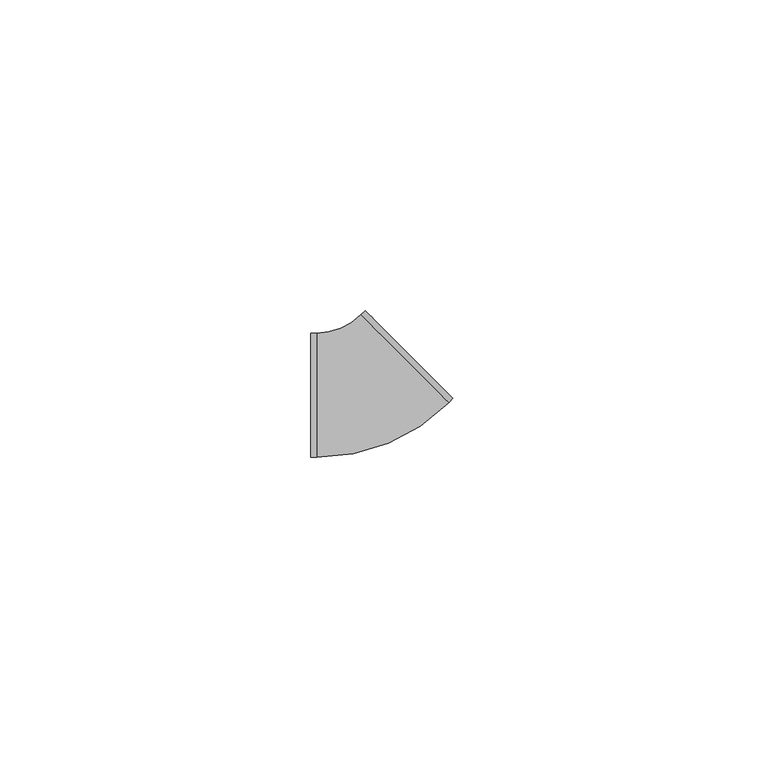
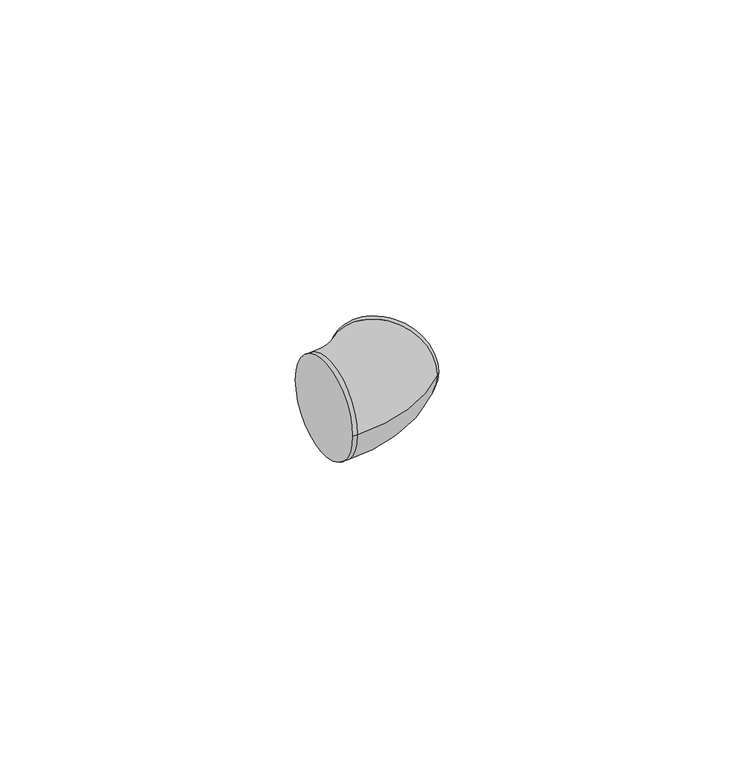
"""IFC4 building model written with IfcOpenShell, lengths in millimetres: cable carrier fitting geometry, ADSK_Поворот_Минимальный размер : Неспецифицируемый."""

import ifcopenshell
import ifcopenshell.guid

model = None  # the IFC model being written
_history = None  # IfcOwnerHistory: only IFC2X3 demands one
_inside = {}  # id of a spatial element -> (the spatial element, [elements in it])
_under = {}  # id of a project, library or spatial element -> (it, [spatial elements below it])
_declared = {}  # id of a project -> (the project, [libraries it declares])
_typed = {}  # id of a type object -> (the type object, [elements of that type])
_made_of = {}  # id of a material, layer set ... -> (it, [elements and type objects made of it])


def new_model(schema):
    """Start an empty IFC model of exactly this schema.

    Asked for "IFC4X3", IfcOpenShell would pick the latest addendum, in which some entities
    have other attributes; the version numbers below select the first issue.
    IFC2X3 requires an IfcOwnerHistory on every rooted entity: one is made here for all.
    """
    global model, _history
    if schema == "IFC4X3":
        model = ifcopenshell.file(schema_version=(4, 3, 0, 0))
    else:
        model = ifcopenshell.file(schema=schema)
    _inside.clear()
    _under.clear()
    _declared.clear()
    _typed.clear()
    _made_of.clear()
    _history = None
    if model.schema == "IFC2X3":
        org = make("IfcOrganization", Name="unknown")
        user = make(
            "IfcPersonAndOrganization",
            ThePerson=make("IfcPerson", FamilyName="unknown"),
            TheOrganization=org,
        )
        app = make(
            "IfcApplication",
            ApplicationDeveloper=org,
            Version="unknown",
            ApplicationFullName="unknown",
            ApplicationIdentifier="unknown",
        )
        _history = make(
            "IfcOwnerHistory",
            OwningUser=user,
            OwningApplication=app,
            ChangeAction="ADDED",
            CreationDate=0,
        )
    return model


def make(cls, **values):
    """One entity of the class cls with the attributes given. An attribute that is None is left unset."""
    return model.create_entity(
        cls, **{name: value for name, value in values.items() if value is not None}
    )


def rooted(cls, **values):
    """An entity with a GlobalId (a new one), such as an element, a storey or a relation."""
    return make(cls, GlobalId=ifcopenshell.guid.new(), OwnerHistory=_history, **values)


def si_unit(unit_type, name, prefix=None):
    """IfcSIUnit, for example si_unit("LENGTHUNIT", "METRE", prefix="MILLI")."""
    return make("IfcSIUnit", UnitType=unit_type, Prefix=prefix, Name=name)


def assignment(units):
    """IfcUnitAssignment: the units of a project."""
    return None if units is None else make("IfcUnitAssignment", Units=units)


def point(xyz):
    """IfcCartesianPoint."""
    return None if xyz is None else make("IfcCartesianPoint", Coordinates=xyz)


def direction(xyz):
    """IfcDirection."""
    return None if xyz is None else make("IfcDirection", DirectionRatios=xyz)


def frame(location, z_axis=None, x_axis=None):
    """IfcAxis2Placement3D, a coordinate frame: its origin and axes. An axis left out is left unset."""
    return make(
        "IfcAxis2Placement3D",
        Location=point(location),
        Axis=direction(z_axis),
        RefDirection=direction(x_axis),
    )


def origin():
    """The frame at (0, 0, 0) with its axes left unset."""
    return frame((0.0, 0.0, 0.0))


def place(relative_to, where):
    """IfcLocalPlacement: puts the frame where relative to a parent placement (None: the world)."""
    return make(
        "IfcLocalPlacement", PlacementRelTo=relative_to, RelativePlacement=where
    )


def context(
    kind, dimensions, precision=None, world=None, true_north=None, identifier=None
):
    """IfcGeometricRepresentationContext, for example the 3D "Model" context."""
    return make(
        "IfcGeometricRepresentationContext",
        ContextIdentifier=identifier,
        ContextType=kind,
        CoordinateSpaceDimension=dimensions,
        Precision=precision,
        WorldCoordinateSystem=world,
        TrueNorth=true_north,
    )


def project(units=None, contexts=None):
    """IfcProject with its units and contexts."""
    return rooted(
        "IfcProject",
        Name="project",
        RepresentationContexts=contexts,
        UnitsInContext=assignment(units),
    )


def spatial(cls, under=None, at=None, **own):
    """A site, building, storey or space (cls), placed at a placement, below another one or the project."""
    s = rooted(cls, ObjectPlacement=at, **own)
    if under is not None:
        _under.setdefault(under.id(), (under, []))[1].append(s)
    return s


def circle_curve(where, radius):
    """IfcCircle in the frame where."""
    return make("IfcCircle", Position=where, Radius=radius)


def ellipse_curve(where, semi_axis1, semi_axis2):
    """IfcEllipse in the frame where."""
    return make(
        "IfcEllipse", Position=where, SemiAxis1=semi_axis1, SemiAxis2=semi_axis2
    )


def trimmed(basis, trim1, trim2, sense, master):
    """IfcTrimmedCurve: the piece of a basis curve between two trims."""
    return make(
        "IfcTrimmedCurve",
        BasisCurve=basis,
        Trim1=trim1,
        Trim2=trim2,
        SenseAgreement=sense,
        MasterRepresentation=master,
    )


def shape(context_of_items, identifier, shape_type, items):
    """IfcShapeRepresentation: the items that make up one representation, for example the "Body"."""
    return make(
        "IfcShapeRepresentation",
        ContextOfItems=context_of_items,
        RepresentationIdentifier=identifier,
        RepresentationType=shape_type,
        Items=items,
    )


def source(mapping_origin, context_of_items, identifier, shape_type, items):
    """IfcRepresentationMap: a shape defined once, which mapped items show again and again."""
    return make(
        "IfcRepresentationMap",
        MappingOrigin=mapping_origin,
        MappedRepresentation=shape(context_of_items, identifier, shape_type, items),
    )


def transform(
    local_origin,
    x_axis=None,
    y_axis=None,
    z_axis=None,
    scale=None,
    scale2=None,
    scale3=None,
    uniform=True,
):
    """IfcCartesianTransformationOperator3D, or its non-uniform kind. x_axis, y_axis, z_axis: its Axis1, 2, 3."""
    if uniform:
        return make(
            "IfcCartesianTransformationOperator3D",
            Axis1=direction(x_axis),
            Axis2=direction(y_axis),
            LocalOrigin=point(local_origin),
            Scale=scale,
            Axis3=direction(z_axis),
        )
    return make(
        "IfcCartesianTransformationOperator3DnonUniform",
        Axis1=direction(x_axis),
        Axis2=direction(y_axis),
        LocalOrigin=point(local_origin),
        Scale=scale,
        Axis3=direction(z_axis),
        Scale2=scale2,
        Scale3=scale3,
    )


def mapped(mapping_source, mapping_target):
    """IfcMappedItem: shows the shape of a source again, moved by a transform."""
    return make(
        "IfcMappedItem", MappingSource=mapping_source, MappingTarget=mapping_target
    )


def made_of(thing, what):
    """Note that an element or type object is made of a material, layer set ...; save() writes the relation."""
    if what is not None:
        _made_of.setdefault(what.id(), (what, []))[1].append(thing)
    return thing


def element(
    cls,
    number,
    at=None,
    inside=None,
    cuts=None,
    type_object=None,
    material=None,
    context=None,
    identifier="Body",
    shape_type=None,
    held_by="IfcProductDefinitionShape",
    body=None,
    shapes=None,
    **own,
):
    """One element of the class cls, such as IfcWall. Its Tag is "e" and its number.

    at: its placement. inside: the storey or other place that contains it. cuts: it is an
    opening in that element (IfcRelVoidsElement). A single representation is given by context,
    identifier, shape_type and body (its items); several are given by shapes. held_by: the class
    of the entity that holds the representations. save() writes the other relations.
    """
    e = rooted(cls, Tag="e%d" % number, ObjectPlacement=at, **own)
    if body is not None:
        shapes = [shape(context, identifier, shape_type, body)]
    if shapes is not None:
        e.Representation = make(held_by, Representations=shapes)
    if inside is not None:
        _inside.setdefault(inside.id(), (inside, []))[1].append(e)
    if cuts is not None:
        rooted(
            "IfcRelVoidsElement", RelatingBuildingElement=cuts, RelatedOpeningElement=e
        )
    if type_object is not None:
        _typed.setdefault(type_object.id(), (type_object, []))[1].append(e)
    return made_of(e, material)


def aggregate(whole, parts):
    """IfcRelAggregates: a whole, such as a stair, and the parts it consists of."""
    return rooted("IfcRelAggregates", RelatingObject=whole, RelatedObjects=parts)


def save(model, path):
    """Write the relations noted so far, then the file.

    IfcRelAggregates (storeys below a building ...), IfcRelContainedInSpatialStructure (elements
    in a storey), IfcRelDefinesByType, IfcRelAssociatesMaterial and IfcRelDeclares: one each for
    every whole, place, type object, material and project.
    """
    for whole, parts in _under.values():
        aggregate(whole, parts)
    for where, things in _inside.values():
        rooted(
            "IfcRelContainedInSpatialStructure",
            RelatedElements=things,
            RelatingStructure=where,
        )
    for kind, things in _typed.values():
        rooted("IfcRelDefinesByType", RelatedObjects=things, RelatingType=kind)
    for what, things in _made_of.values():
        rooted("IfcRelAssociatesMaterial", RelatedObjects=things, RelatingMaterial=what)
    for by, libraries in _declared.values():
        rooted("IfcRelDeclares", RelatingContext=by, RelatedDefinitions=libraries)
    model.write(path)


def plane_surface(at):
    """IfcPlane: the flat surface through the origin of the frame at, square to its z axis."""
    return make("IfcPlane", Position=at)


def cylinder_surface(at, radius):
    """IfcCylindricalSurface: all points at the distance radius from the z axis of the frame at."""
    return make("IfcCylindricalSurface", Position=at, Radius=radius)


def revolved_surface(curve, axis_point, axis_direction):
    """IfcSurfaceOfRevolution: the curve turned about the line through axis_point along axis_direction."""
    return make(
        "IfcSurfaceOfRevolution",
        SweptCurve=make("IfcArbitraryOpenProfileDef", ProfileType="CURVE", Curve=curve),
        AxisPosition=make("IfcAxis1Placement", Location=point(axis_point), Axis=direction(axis_direction)),
    )


def advanced_brep(points, edges, surfaces, faces):
    """IfcAdvancedBrep: a solid bounded by faces that lie on surfaces and meet in shared edges.

    An edge is (start, end): straight between two places in points (the first is 0);
    or (start, end, curve); or (start, end, curve, False) where it runs against its curve.
    A face is (place in surfaces, loops), or (place, loops, False) where it looks against
    its surface's normal. A loop lists edges by number (the first is 1), with a minus sign
    where the edge is run from its end to its start. The first loop is the outer one.
    """
    corners = [point(p) for p in points]
    vertices = [make("IfcVertexPoint", VertexGeometry=c) for c in corners]
    made = []
    for start, end, *more in edges:
        made.append(
            make(
                "IfcEdgeCurve",
                EdgeStart=vertices[start],
                EdgeEnd=vertices[end],
                EdgeGeometry=more[0] if more else make("IfcPolyline", Points=[corners[start], corners[end]]),
                SameSense=more[1] if len(more) > 1 else True,
            )
        )
    hull = []
    for where, loops, *sense in faces:
        bounds = []
        for j, loop in enumerate(loops):
            ring = [make("IfcOrientedEdge", EdgeElement=made[abs(k) - 1], Orientation=k > 0) for k in loop]
            bounds.append(
                make(
                    "IfcFaceOuterBound" if j == 0 else "IfcFaceBound",
                    Bound=make("IfcEdgeLoop", EdgeList=ring),
                    Orientation=True,
                )
            )
        hull.append(make("IfcAdvancedFace", Bounds=bounds, FaceSurface=surfaces[where], SameSense=sense[0] if sense else True))
    return make("IfcAdvancedBrep", Outer=make("IfcClosedShell", CfsFaces=hull))


def cable_carrier_fitting_5f05cd2f(model_context):
    return source(origin(), model_context, "Body", "AdvancedBrep", [
        advanced_brep(
        [(-9.2842781, -10.0, 0.0), (-9.2842781, 10.0, 0.0), (-8.2842781, -10.0, 0.0), (-8.2842781, 10.0, 0.0), (-1.2132062, 12.9289363, 0.0), (12.9289378, -1.213191, 0.0), (13.6360441, -0.5060838, 0.0), (-0.5060998, 13.6360435, 0.0)],
        [
            (0, 1, circle_curve(frame((-9.2842781, 0.0, 0.0), z_axis=(-1.0, -4.92260399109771e-12, 0.0), x_axis=(-4.92260399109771e-12, 1.0, 0.0)), 10.0)),
            (1, 0, circle_curve(frame((-9.2842781, 0.0, 0.0), z_axis=(-1.0, -4.92260399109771e-12, 0.0), x_axis=(-4.92260399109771e-12, 1.0, 0.0)), 10.0)),
            (0, 2),
            (2, 3, circle_curve(frame((-8.2842781, 0.0, 0.0), z_axis=(-1.0, -4.92260399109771e-12, 0.0), x_axis=(-4.92260399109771e-12, 1.0, 0.0)), 10.0)),
            (3, 1),
            (3, 2, circle_curve(frame((-8.2842781, 0.0, 0.0), z_axis=(-1.0, -4.92260399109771e-12, 0.0), x_axis=(-4.92260399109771e-12, 1.0, 0.0)), 10.0)),
            (4, 3, circle_curve(frame((-8.2842781, 20.0, 0.0), z_axis=(0.0, 0.0, -1.0), x_axis=(0.0, -1.0, 0.0)), 10.0)),
            (2, 5, circle_curve(frame((-8.2842781, 20.0, 0.0), z_axis=(0.0, 0.0, 1.0), x_axis=(0.0, -1.0, 0.0)), 30.0)),
            (5, 4, circle_curve(frame((5.8578658, 5.8578727, 0.0), z_axis=(-0.7071063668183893, -0.7071071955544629, 0.0), x_axis=(-0.7071071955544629, 0.7071063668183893, 0.0)), 10.0)),
            (4, 5, circle_curve(frame((5.8578658, 5.8578727, 0.0), z_axis=(-0.7071063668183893, -0.7071071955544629, 0.0), x_axis=(-0.7071071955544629, 0.7071063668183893, 0.0)), 10.0)),
            (6, 7, circle_curve(frame((6.5649722, 6.5649799, 0.0), z_axis=(0.7071063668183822, 0.70710719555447, 0.0), x_axis=(-0.70710719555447, 0.7071063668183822, 0.0)), 10.0)),
            (7, 6, circle_curve(frame((6.5649722, 6.5649799, 0.0), z_axis=(0.7071063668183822, 0.70710719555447, 0.0), x_axis=(-0.70710719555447, 0.7071063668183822, 0.0)), 10.0)),
            (5, 6),
            (7, 4),
        ],
        [
            plane_surface(frame((-9.2842781, 0.0, 0.0), z_axis=(-1.0, -4.92260399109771e-12, 0.0), x_axis=(0.0, 0.0, 1.0))),
            cylinder_surface(frame((-9.2842781, 0.0, 0.0), z_axis=(-1.0, -4.92260399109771e-12, 0.0), x_axis=(-4.92260399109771e-12, 1.0, 0.0)), 10.0),
            revolved_surface(trimmed(ellipse_curve(frame((-8.2842781, 0.0, 0.0), z_axis=(-1.0, 0.0, 0.0), x_axis=(0.0, 1.0, 0.0)), 10.0, 10.0), [point((-8.2842781, -10.0, 0.0))], [point((-8.2842781, 10.0, 0.0))], True, "CARTESIAN"), (-8.2842781, 20.0, 0.0), (0.0, 0.0, 1.0)),
            revolved_surface(trimmed(ellipse_curve(frame((-8.2842781, 0.0, 0.0), z_axis=(-1.0, 0.0, 0.0), x_axis=(0.0, 1.0, 0.0)), 10.0, 10.0), [point((-8.2842781, 10.0, 0.0))], [point((-8.2842781, -10.0, 0.0))], True, "CARTESIAN"), (-8.2842781, 20.0, 0.0), (0.0, 0.0, 1.0)),
            plane_surface(frame((6.5649722, 6.5649799, 0.0), z_axis=(0.7071063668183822, 0.70710719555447, 0.0), x_axis=(0.0, 0.0, 1.0))),
            cylinder_surface(frame((5.8578658, 5.8578727, 0.0), z_axis=(-0.7071063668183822, -0.70710719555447, 0.0), x_axis=(-0.70710719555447, 0.7071063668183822, 0.0)), 10.0),
        ],
        [
            (0, [[1, 2]]),
            (1, [[-1, 3, 4, 5]]),
            (1, [[-2, -5, 6, -3]]),
            (2, [[7, -4, 8, 9]]),
            (3, [[-8, -6, -7, 10]]),
            (4, [[11, 12]]),
            (5, [[-9, 13, -12, 14]]),
            (5, [[-10, -14, -11, -13]]),
        ],
    ),
    ])


if __name__ == "__main__":
    model = new_model("IFC4")
    model_context = context("Model", 3, world=origin())
    ifc_project = project(units=[si_unit("LENGTHUNIT", "METRE", prefix="MILLI")], contexts=[model_context])
    site = spatial("IfcSite", under=ifc_project)
    building = spatial("IfcBuilding", under=site)
    placement = place(None, origin())
    cable_carrier_fitting_shape = cable_carrier_fitting_5f05cd2f(model_context)
    element("IfcCableCarrierFitting", 1, ObjectType="ADSK_Поворот_Минимальный размер : Неспецифицируемый", at=placement, inside=building, context=model_context, shape_type="MappedRepresentation", body=[
        mapped(cable_carrier_fitting_shape, transform((0.0, 0.0, 0.0), x_axis=(1.0, 0.0, 0.0), y_axis=(0.0, 1.0, 0.0), z_axis=(0.0, 0.0, 1.0))),
    ])
    save(model, "model.ifc")
